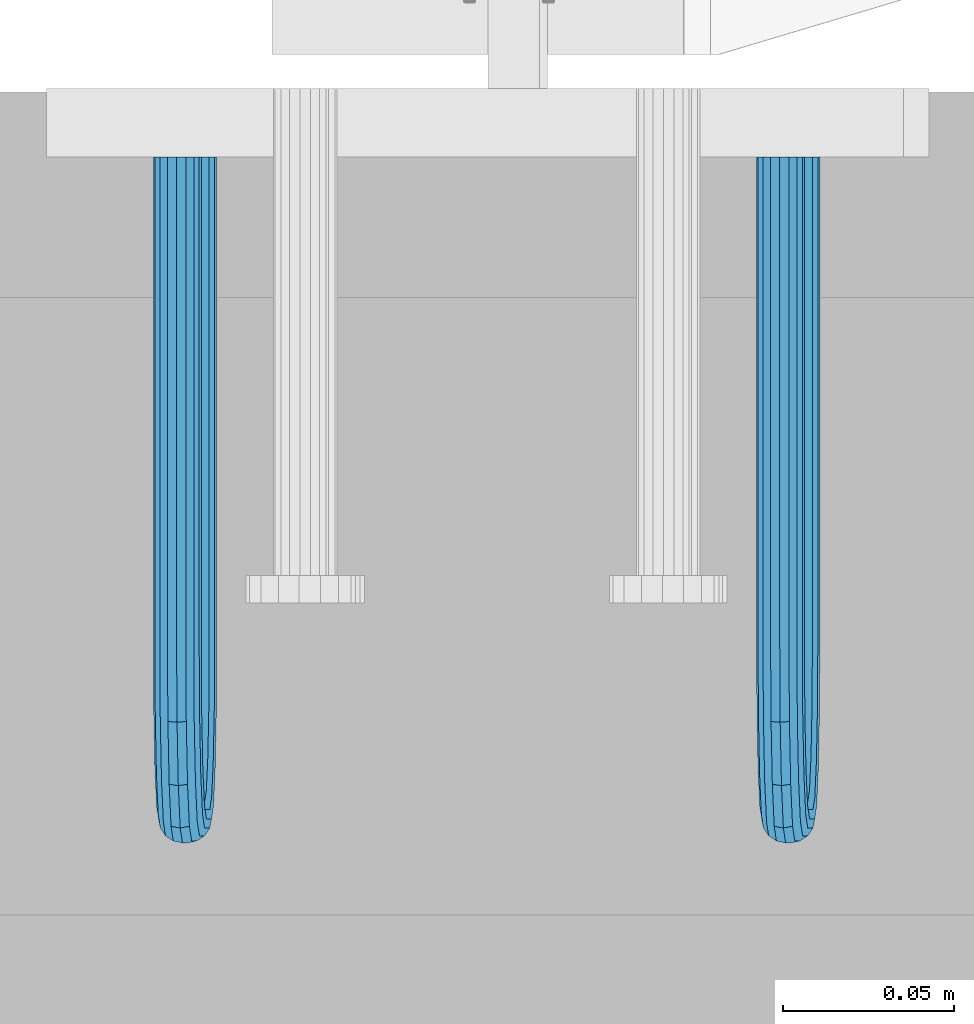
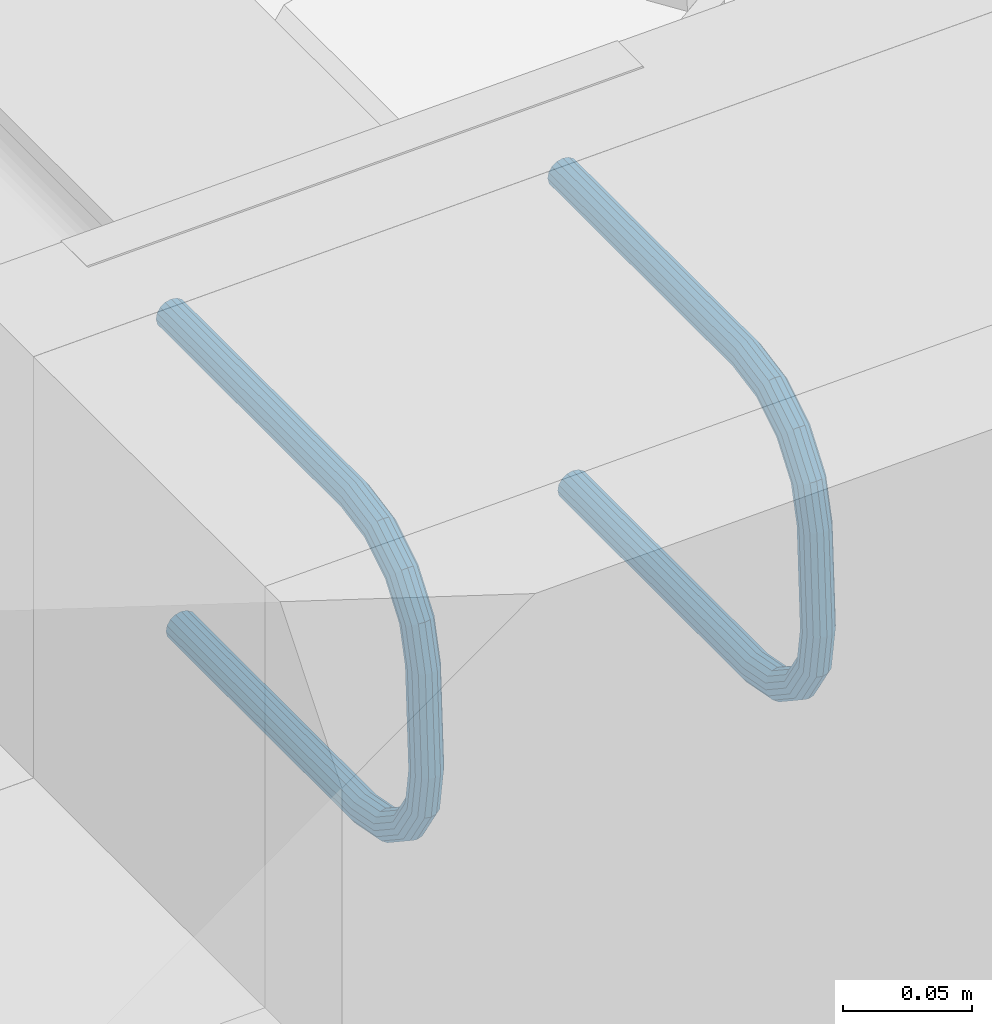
# One storey, part 78 of 476: 2 beams.
"""IFC2X3 building model written with IfcOpenShell, lengths in millimetres."""

from ifc_helpers import new_model, entity, si_unit, converted_unit, origin_with_axes, place, context, project, spatial, faceted_brep, material, element, save


model = new_model("IFC2X3")

# Units and contexts
model_context = context("Model", 3, precision=1e-09, world=origin_with_axes())
ifc_project = project(units=[si_unit("LENGTHUNIT", "METRE", prefix="MILLI"), si_unit("AREAUNIT", "SQUARE_METRE"), si_unit("VOLUMEUNIT", "CUBIC_METRE"), converted_unit("PLANEANGLEUNIT", "DEGREE", entity("IfcPlaneAngleMeasure", 0.01745329), si_unit("PLANEANGLEUNIT", "RADIAN"), dimensions=[0, 0, 0, 0, 0, 0, 0])], contexts=[model_context])

# Site, building, storey
site_placement = place(None, origin_with_axes())
site = spatial("IfcSite", under=ifc_project, at=site_placement, Name="mKR Teilneubau & Sanierung BA1 - Ostfildern", CompositionType="ELEMENT")
building_placement = place(site_placement, origin_with_axes())
building = spatial("IfcBuilding", under=site, at=building_placement, Name="Struktur 1", CompositionType="ELEMENT")
storey_placement = place(building_placement, origin_with_axes())
storey = spatial("IfcBuildingStorey", under=building, at=storey_placement, Name="Default Storey", CompositionType="ELEMENT", Elevation=0.0)

# Beams
ifc_material = material(Name="S235JR")
beam_1_placement = place(None, origin_with_axes())
element("IfcBeam", 1, at=beam_1_placement, inside=storey, material=ifc_material, Name="-", ObjectType="-", context=model_context, shape_type="Brep", body=[
    faceted_brep([(8251.627251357, -23499.31640625, 5094.711108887), (8253.851603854, -23499.31640625, 5096.296057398), (8256.513171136, -23499.31640625, 5096.909136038), (8259.20675371, -23499.31640625, 5096.457009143), (8261.522278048, -23499.31640625, 5095.008508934), (8263.107226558, -23499.31640625, 5092.784156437), (8263.720305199, -23499.31640625, 5090.122589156), (8263.268178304, -23499.31640625, 5087.429006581), (8261.819678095, -23499.31640625, 5085.113482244), (8259.595325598, -23499.31640625, 5083.528533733), (8256.933758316, -23499.31640625, 5082.915455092), (8254.240175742, -23499.31640625, 5083.367581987), (8251.924651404, -23499.31640625, 5084.816082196), (8250.339702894, -23499.31640625, 5087.040434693), (8249.726624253, -23499.31640625, 5089.702001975), (8250.178751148, -23499.31640625, 5092.395584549), (8249.733884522, -23499.31640625, 5233.299877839), (8247.418360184, -23499.31640625, 5234.748378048), (8245.833411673, -23499.31640625, 5236.972730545), (8245.220333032, -23499.31640625, 5239.634297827), (8245.672459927, -23499.31640625, 5242.327880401), (8247.120960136, -23499.31640625, 5244.643404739), (8249.345312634, -23499.31640625, 5246.22835325), (8252.006879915, -23499.31640625, 5246.84143189), (8254.70046249, -23499.31640625, 5246.389304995), (8257.015986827, -23499.31640625, 5244.940804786), (8258.600935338, -23499.31640625, 5242.716452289), (8259.214013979, -23499.31640625, 5240.054885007), (8258.761887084, -23499.31640625, 5237.361302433), (8257.313386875, -23499.31640625, 5235.045778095), (8255.089034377, -23499.31640625, 5233.460829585), (8252.427467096, -23499.31640625, 5232.847750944), (8251.627251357, -23642.31640625, 5094.711108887), (8253.851603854, -23642.31640625, 5096.296057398), (8250.178751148, -23642.31640625, 5092.395584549), (8249.726624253, -23642.31640625, 5089.702001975), (8250.339702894, -23642.31640625, 5087.040434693), (8251.924651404, -23642.31640625, 5084.816082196), (8254.240175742, -23642.31640625, 5083.367581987), (8256.933758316, -23642.31640625, 5082.915455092), (8259.595325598, -23642.31640625, 5083.528533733), (8261.819678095, -23642.31640625, 5085.113482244), (8263.268178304, -23642.31640625, 5087.429006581), (8263.720305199, -23642.31640625, 5090.122589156), (8263.107226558, -23642.31640625, 5092.784156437), (8261.522278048, -23642.31640625, 5095.008508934), (8259.20675371, -23642.31640625, 5096.457009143), (8256.513171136, -23642.31640625, 5096.909136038), (8251.524230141, -23659.556391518, 5098.138807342), (8253.75205266, -23658.975704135, 5099.608302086), (8250.070536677, -23660.425451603, 5095.996071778), (8249.612283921, -23661.450577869, 5093.506307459), (8250.219236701, -23662.475704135, 5091.048558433), (8251.798991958, -23663.344764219, 5088.996994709), (8254.111046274, -23663.925451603, 5087.663948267), (8256.803410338, -23664.129361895, 5087.252363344), (8259.466196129, -23663.925451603, 5087.824900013), (8261.694018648, -23663.344764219, 5089.294394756), (8263.147712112, -23662.475704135, 5091.43713032), (8263.605964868, -23661.450577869, 5093.926894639), (8262.999012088, -23660.425451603, 5096.384643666), (8261.419256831, -23659.556391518, 5098.43620739), (8259.107202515, -23658.975704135, 5099.769253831), (8256.414838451, -23658.771793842, 5100.180838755), (8251.230850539, -23674.17174531, 5107.90006669), (8253.468554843, -23673.098774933, 5109.040776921), (8249.762367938, -23675.777558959, 5106.249391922), (8249.286670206, -23677.67174531, 5104.340052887), (8249.876178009, -23679.56593166, 5102.462729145), (8251.441144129, -23681.17174531, 5100.903226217), (8253.74331666, -23682.244715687, 5099.898964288), (8256.432210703, -23682.621492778, 5099.602833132), (8259.098466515, -23682.244715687, 5100.059916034), (8261.33617082, -23681.17174531, 5101.200626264), (8262.80465342, -23679.56593166, 5102.851301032), (8263.280351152, -23677.67174531, 5104.760640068), (8262.690843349, -23675.777558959, 5106.63796381), (8261.125877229, -23674.17174531, 5108.197466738), (8258.823704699, -23673.098774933, 5109.201728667), (8256.134810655, -23672.721997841, 5109.497859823), (8250.791776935, -23683.937412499, 5122.508823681), (8253.044270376, -23682.535509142, 5123.157473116), (8249.301160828, -23686.035509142, 5121.594569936), (8248.799354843, -23688.510382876, 5120.553898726), (8249.362754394, -23690.98525661, 5119.545242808), (8250.905587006, -23693.083353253, 5118.722160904), (8253.1929704, -23694.48525661, 5118.209959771), (8255.876671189, -23694.977539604, 5118.086617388), (8258.548120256, -23694.48525661, 5118.370911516), (8260.800613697, -23693.083353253, 5119.019560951), (8262.291229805, -23690.98525661, 5119.933814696), (8262.793035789, -23688.510382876, 5120.974485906), (8262.229636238, -23686.035509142, 5121.983141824), (8260.686803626, -23683.937412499, 5122.806223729), (8258.399420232, -23682.535509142, 5123.318424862), (8255.715719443, -23682.043226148, 5123.441767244), (8250.273854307, -23687.366658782, 5139.741027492), (8252.543792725, -23685.849249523, 5139.809251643), (8248.757129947, -23689.637622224, 5139.695441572), (8248.224527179, -23692.31640625, 5139.679433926), (8248.757129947, -23694.995190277, 5139.695441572), (8250.273854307, -23697.266153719, 5139.741027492), (8252.543792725, -23698.783562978, 5139.809251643), (8255.221367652, -23699.31640625, 5139.889727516), (8257.89894258, -23698.783562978, 5139.970203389), (8260.168880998, -23697.266153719, 5140.03842754), (8261.685605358, -23694.995190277, 5140.08401346), (8262.218208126, -23692.31640625, 5140.100021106), (8261.685605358, -23689.637622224, 5140.08401346), (8260.168880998, -23687.366658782, 5140.03842754), (8257.89894258, -23685.849249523, 5139.970203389), (8255.221367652, -23685.31640625, 5139.889727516), (8248.771757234, -23687.366658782, 5189.718459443), (8251.041695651, -23685.849249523, 5189.786683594), (8247.255032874, -23689.637622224, 5189.672873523), (8246.722430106, -23692.31640625, 5189.656865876), (8247.255032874, -23694.995190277, 5189.672873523), (8248.771757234, -23697.266153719, 5189.718459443), (8251.041695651, -23698.783562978, 5189.786683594), (8253.719270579, -23699.31640625, 5189.867159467), (8256.396845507, -23698.783562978, 5189.947635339), (8258.666783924, -23697.266153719, 5190.01585949), (8260.183508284, -23694.995190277, 5190.06144541), (8260.716111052, -23692.31640625, 5190.077453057), (8260.183508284, -23689.637622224, 5190.06144541), (8258.666783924, -23687.366658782, 5190.01585949), (8256.396845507, -23685.849249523, 5189.947635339), (8253.719270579, -23685.31640625, 5189.867159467), (8248.253834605, -23683.937412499, 5206.950663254), (8250.541217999, -23682.535509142, 5206.438462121), (8246.711001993, -23686.035509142, 5207.773745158), (8246.147602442, -23688.510382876, 5208.782401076), (8246.649408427, -23690.98525661, 5209.823072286), (8248.140024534, -23693.083353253, 5210.737326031), (8250.392517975, -23694.48525661, 5211.385975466), (8253.063967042, -23694.977539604, 5211.670269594), (8255.747667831, -23694.48525661, 5211.546927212), (8258.035051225, -23693.083353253, 5211.034726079), (8259.577883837, -23690.98525661, 5210.211644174), (8260.141283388, -23688.510382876, 5209.202988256), (8259.639477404, -23686.035509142, 5208.162317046), (8258.148861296, -23683.937412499, 5207.248063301), (8255.896367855, -23682.535509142, 5206.599413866), (8253.224918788, -23682.043226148, 5206.315119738), (8247.814761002, -23674.17174531, 5221.559420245), (8250.116933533, -23673.098774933, 5220.555158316), (8246.249794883, -23675.777558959, 5223.118923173), (8245.660287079, -23677.67174531, 5224.996246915), (8246.135984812, -23679.56593166, 5226.90558595), (8247.604467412, -23681.17174531, 5228.556260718), (8249.842171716, -23682.244715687, 5229.696970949), (8252.508427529, -23682.621492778, 5230.154053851), (8255.197321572, -23682.244715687, 5229.857922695), (8257.499494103, -23681.17174531, 5228.853660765), (8259.064460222, -23679.56593166, 5227.294157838), (8259.653968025, -23677.67174531, 5225.416834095), (8259.178270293, -23675.777558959, 5223.50749506), (8257.709787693, -23674.17174531, 5221.856820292), (8255.472083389, -23673.098774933, 5220.716110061), (8252.805827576, -23672.721997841, 5220.25902716), (8247.5213814, -23659.556391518, 5231.320679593), (8249.833435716, -23658.975704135, 5229.987633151), (8245.941626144, -23660.425451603, 5233.372243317), (8245.334673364, -23661.450577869, 5235.829992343), (8245.79292612, -23662.475704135, 5238.319756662), (8247.246619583, -23663.344764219, 5240.462492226), (8249.474442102, -23663.925451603, 5241.93198697), (8252.137227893, -23664.129361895, 5242.504523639), (8254.829591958, -23663.925451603, 5242.092938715), (8257.141646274, -23663.344764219, 5240.759892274), (8258.72140153, -23662.475704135, 5238.70832855), (8259.32835431, -23661.450577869, 5236.250579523), (8258.870101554, -23660.425451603, 5233.760815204), (8257.416408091, -23659.556391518, 5231.61807964), (8255.188585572, -23658.975704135, 5230.148584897), (8252.525799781, -23658.771793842, 5229.576048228), (8247.418360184, -23642.31640625, 5234.748378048), (8249.733884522, -23642.31640625, 5233.299877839), (8245.833411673, -23642.31640625, 5236.972730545), (8245.220333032, -23642.31640625, 5239.634297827), (8245.672459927, -23642.31640625, 5242.327880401), (8247.120960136, -23642.31640625, 5244.643404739), (8249.345312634, -23642.31640625, 5246.22835325), (8252.006879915, -23642.31640625, 5246.84143189), (8254.70046249, -23642.31640625, 5246.389304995), (8257.015986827, -23642.31640625, 5244.940804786), (8258.600935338, -23642.31640625, 5242.716452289), (8259.214013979, -23642.31640625, 5240.054885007), (8258.761887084, -23642.31640625, 5237.361302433), (8257.313386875, -23642.31640625, 5235.045778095), (8255.089034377, -23642.31640625, 5233.460829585), (8252.427467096, -23642.31640625, 5232.847750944)], [[[0, 1, 2, 3, 4, 5, 6, 7, 8, 9, 10, 11, 12, 13, 14, 15]], [[16, 17, 18, 19, 20, 21, 22, 23, 24, 25, 26, 27, 28, 29, 30, 31]], [[1, 0, 32, 33]], [[0, 15, 34, 32]], [[15, 14, 35, 34]], [[14, 13, 36, 35]], [[13, 12, 37, 36]], [[12, 11, 38, 37]], [[11, 10, 39, 38]], [[10, 9, 40, 39]], [[9, 8, 41, 40]], [[8, 7, 42, 41]], [[7, 6, 43, 42]], [[6, 5, 44, 43]], [[5, 4, 45, 44]], [[4, 3, 46, 45]], [[3, 2, 47, 46]], [[2, 1, 33, 47]], [[33, 32, 48, 49]], [[32, 34, 50, 48]], [[34, 35, 51, 50]], [[35, 36, 52, 51]], [[36, 37, 53, 52]], [[37, 38, 54, 53]], [[38, 39, 55, 54]], [[39, 40, 56, 55]], [[40, 41, 57, 56]], [[41, 42, 58, 57]], [[42, 43, 59, 58]], [[43, 44, 60, 59]], [[44, 45, 61, 60]], [[45, 46, 62, 61]], [[46, 47, 63, 62]], [[47, 33, 49, 63]], [[49, 48, 64, 65]], [[48, 50, 66, 64]], [[50, 51, 67, 66]], [[51, 52, 68, 67]], [[52, 53, 69, 68]], [[53, 54, 70, 69]], [[54, 55, 71, 70]], [[55, 56, 72, 71]], [[56, 57, 73, 72]], [[57, 58, 74, 73]], [[58, 59, 75, 74]], [[59, 60, 76, 75]], [[60, 61, 77, 76]], [[61, 62, 78, 77]], [[62, 63, 79, 78]], [[63, 49, 65, 79]], [[65, 64, 80, 81]], [[64, 66, 82, 80]], [[66, 67, 83, 82]], [[67, 68, 84, 83]], [[68, 69, 85, 84]], [[69, 70, 86, 85]], [[70, 71, 87, 86]], [[71, 72, 88, 87]], [[72, 73, 89, 88]], [[73, 74, 90, 89]], [[74, 75, 91, 90]], [[75, 76, 92, 91]], [[76, 77, 93, 92]], [[77, 78, 94, 93]], [[78, 79, 95, 94]], [[79, 65, 81, 95]], [[81, 80, 96, 97]], [[80, 82, 98, 96]], [[82, 83, 99, 98]], [[83, 84, 100, 99]], [[84, 85, 101, 100]], [[85, 86, 102, 101]], [[86, 87, 103, 102]], [[87, 88, 104, 103]], [[88, 89, 105, 104]], [[89, 90, 106, 105]], [[90, 91, 107, 106]], [[91, 92, 108, 107]], [[92, 93, 109, 108]], [[93, 94, 110, 109]], [[94, 95, 111, 110]], [[95, 81, 97, 111]], [[97, 96, 112, 113]], [[96, 98, 114, 112]], [[98, 99, 115, 114]], [[99, 100, 116, 115]], [[100, 101, 117, 116]], [[101, 102, 118, 117]], [[102, 103, 119, 118]], [[103, 104, 120, 119]], [[104, 105, 121, 120]], [[105, 106, 122, 121]], [[106, 107, 123, 122]], [[107, 108, 124, 123]], [[108, 109, 125, 124]], [[109, 110, 126, 125]], [[110, 111, 127, 126]], [[111, 97, 113, 127]], [[113, 112, 128, 129]], [[112, 114, 130, 128]], [[114, 115, 131, 130]], [[115, 116, 132, 131]], [[116, 117, 133, 132]], [[117, 118, 134, 133]], [[118, 119, 135, 134]], [[119, 120, 136, 135]], [[120, 121, 137, 136]], [[121, 122, 138, 137]], [[122, 123, 139, 138]], [[123, 124, 140, 139]], [[124, 125, 141, 140]], [[125, 126, 142, 141]], [[126, 127, 143, 142]], [[127, 113, 129, 143]], [[129, 128, 144, 145]], [[128, 130, 146, 144]], [[130, 131, 147, 146]], [[131, 132, 148, 147]], [[132, 133, 149, 148]], [[133, 134, 150, 149]], [[134, 135, 151, 150]], [[135, 136, 152, 151]], [[136, 137, 153, 152]], [[137, 138, 154, 153]], [[138, 139, 155, 154]], [[139, 140, 156, 155]], [[140, 141, 157, 156]], [[141, 142, 158, 157]], [[142, 143, 159, 158]], [[143, 129, 145, 159]], [[145, 144, 160, 161]], [[144, 146, 162, 160]], [[146, 147, 163, 162]], [[147, 148, 164, 163]], [[148, 149, 165, 164]], [[149, 150, 166, 165]], [[150, 151, 167, 166]], [[151, 152, 168, 167]], [[152, 153, 169, 168]], [[153, 154, 170, 169]], [[154, 155, 171, 170]], [[155, 156, 172, 171]], [[156, 157, 173, 172]], [[157, 158, 174, 173]], [[158, 159, 175, 174]], [[159, 145, 161, 175]], [[161, 160, 176, 177]], [[160, 162, 178, 176]], [[162, 163, 179, 178]], [[163, 164, 180, 179]], [[164, 165, 181, 180]], [[165, 166, 182, 181]], [[166, 167, 183, 182]], [[167, 168, 184, 183]], [[168, 169, 185, 184]], [[169, 170, 186, 185]], [[170, 171, 187, 186]], [[171, 172, 188, 187]], [[172, 173, 189, 188]], [[173, 174, 190, 189]], [[174, 175, 191, 190]], [[175, 161, 177, 191]], [[177, 176, 17, 16]], [[176, 178, 18, 17]], [[178, 179, 19, 18]], [[179, 180, 20, 19]], [[180, 181, 21, 20]], [[181, 182, 22, 21]], [[182, 183, 23, 22]], [[183, 184, 24, 23]], [[184, 185, 25, 24]], [[185, 186, 26, 25]], [[186, 187, 27, 26]], [[187, 188, 28, 27]], [[188, 189, 29, 28]], [[189, 190, 30, 29]], [[190, 191, 31, 30]], [[191, 177, 16, 31]]]),
])
beam_2_placement = place(None, origin_with_axes())
element("IfcBeam", 2, at=beam_2_placement, inside=storey, material=ifc_material, Name="-", ObjectType="-", context=model_context, shape_type="Brep", body=[
    faceted_brep([(8075.706690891, -23499.31640625, 5089.423727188), (8077.931043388, -23499.31640625, 5091.008675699), (8080.592610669, -23499.31640625, 5091.62175434), (8083.286193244, -23499.31640625, 5091.169627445), (8085.601717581, -23499.31640625, 5089.721127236), (8087.186666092, -23499.31640625, 5087.496774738), (8087.799744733, -23499.31640625, 5084.835207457), (8087.347617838, -23499.31640625, 5082.141624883), (8085.899117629, -23499.31640625, 5079.826100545), (8083.674765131, -23499.31640625, 5078.241152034), (8081.01319785, -23499.31640625, 5077.628073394), (8078.319615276, -23499.31640625, 5078.080200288), (8076.004090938, -23499.31640625, 5079.528700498), (8074.419142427, -23499.31640625, 5081.753052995), (8073.806063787, -23499.31640625, 5084.414620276), (8074.258190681, -23499.31640625, 5087.108202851), (8073.813324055, -23499.31640625, 5228.01249614), (8071.497799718, -23499.31640625, 5229.460996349), (8069.912851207, -23499.31640625, 5231.685348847), (8069.299772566, -23499.31640625, 5234.346916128), (8069.751899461, -23499.31640625, 5237.040498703), (8071.20039967, -23499.31640625, 5239.35602304), (8073.424752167, -23499.31640625, 5240.940971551), (8076.086319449, -23499.31640625, 5241.554050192), (8078.779902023, -23499.31640625, 5241.101923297), (8081.095426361, -23499.31640625, 5239.653423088), (8082.680374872, -23499.31640625, 5237.42907059), (8083.293453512, -23499.31640625, 5234.767503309), (8082.841326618, -23499.31640625, 5232.073920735), (8081.392826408, -23499.31640625, 5229.758396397), (8079.168473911, -23499.31640625, 5228.173447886), (8076.50690663, -23499.31640625, 5227.560369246), (8075.706690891, -23642.31640625, 5089.423727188), (8077.931043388, -23642.31640625, 5091.008675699), (8074.258190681, -23642.31640625, 5087.108202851), (8073.806063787, -23642.31640625, 5084.414620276), (8074.419142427, -23642.31640625, 5081.753052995), (8076.004090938, -23642.31640625, 5079.528700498), (8078.319615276, -23642.31640625, 5078.080200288), (8081.01319785, -23642.31640625, 5077.628073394), (8083.674765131, -23642.31640625, 5078.241152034), (8085.899117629, -23642.31640625, 5079.826100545), (8087.347617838, -23642.31640625, 5082.141624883), (8087.799744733, -23642.31640625, 5084.835207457), (8087.186666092, -23642.31640625, 5087.496774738), (8085.601717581, -23642.31640625, 5089.721127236), (8083.286193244, -23642.31640625, 5091.169627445), (8080.592610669, -23642.31640625, 5091.62175434), (8075.603669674, -23659.556391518, 5092.851425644), (8077.831492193, -23658.975704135, 5094.320920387), (8074.149976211, -23660.425451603, 5090.708690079), (8073.691723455, -23661.450577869, 5088.21892576), (8074.298676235, -23662.475704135, 5085.761176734), (8075.878431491, -23663.344764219, 5083.70961301), (8078.190485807, -23663.925451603, 5082.376566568), (8080.882849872, -23664.129361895, 5081.964981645), (8083.545635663, -23663.925451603, 5082.537518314), (8085.773458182, -23663.344764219, 5084.007013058), (8087.227151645, -23662.475704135, 5086.149748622), (8087.685404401, -23661.450577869, 5088.639512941), (8087.078451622, -23660.425451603, 5091.097261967), (8085.498696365, -23659.556391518, 5093.148825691), (8083.186642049, -23658.975704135, 5094.481872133), (8080.494277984, -23658.771793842, 5094.893457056), (8075.310290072, -23674.17174531, 5102.612684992), (8077.547994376, -23673.098774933, 5103.753395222), (8073.841807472, -23675.777558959, 5100.962010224), (8073.36610974, -23677.67174531, 5099.052671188), (8073.955617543, -23679.56593166, 5097.175347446), (8075.520583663, -23681.17174531, 5095.615844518), (8077.822756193, -23682.244715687, 5094.611582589), (8080.511650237, -23682.621492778, 5094.315451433), (8083.177906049, -23682.244715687, 5094.772534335), (8085.415610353, -23681.17174531, 5095.913244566), (8086.884092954, -23679.56593166, 5097.563919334), (8087.359790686, -23677.67174531, 5099.473258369), (8086.770282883, -23675.777558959, 5101.350582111), (8085.205316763, -23674.17174531, 5102.910085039), (8082.903144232, -23673.098774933, 5103.914346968), (8080.214250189, -23672.721997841, 5104.210478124), (8074.871216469, -23683.937412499, 5117.221441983), (8077.12370991, -23682.535509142, 5117.870091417), (8073.380600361, -23686.035509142, 5116.307188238), (8072.878794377, -23688.510382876, 5115.266517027), (8073.442193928, -23690.98525661, 5114.25786111), (8074.98502654, -23693.083353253, 5113.434779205), (8077.272409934, -23694.48525661, 5112.922578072), (8079.956110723, -23694.977539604, 5112.79923569), (8082.62755979, -23694.48525661, 5113.083529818), (8084.880053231, -23693.083353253, 5113.732179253), (8086.370669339, -23690.98525661, 5114.646432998), (8086.872475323, -23688.510382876, 5115.687104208), (8086.309075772, -23686.035509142, 5116.695760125), (8084.76624316, -23683.937412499, 5117.51884203), (8082.478859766, -23682.535509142, 5118.031043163), (8079.795158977, -23682.043226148, 5118.154385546), (8074.353293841, -23687.366658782, 5134.453645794), (8076.623232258, -23685.849249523, 5134.521869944), (8072.836569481, -23689.637622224, 5134.408059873), (8072.303966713, -23692.31640625, 5134.392052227), (8072.836569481, -23694.995190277, 5134.408059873), (8074.353293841, -23697.266153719, 5134.453645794), (8076.623232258, -23698.783562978, 5134.521869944), (8079.300807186, -23699.31640625, 5134.602345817), (8081.978382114, -23698.783562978, 5134.68282169), (8084.248320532, -23697.266153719, 5134.751045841), (8085.765044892, -23694.995190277, 5134.796631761), (8086.297647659, -23692.31640625, 5134.812639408), (8085.765044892, -23689.637622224, 5134.796631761), (8084.248320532, -23687.366658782, 5134.751045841), (8081.978382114, -23685.849249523, 5134.68282169), (8079.300807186, -23685.31640625, 5134.602345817), (8072.851196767, -23687.366658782, 5184.431077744), (8075.121135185, -23685.849249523, 5184.499301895), (8071.334472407, -23689.637622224, 5184.385491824), (8070.80186964, -23692.31640625, 5184.369484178), (8071.334472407, -23694.995190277, 5184.385491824), (8072.851196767, -23697.266153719, 5184.431077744), (8075.121135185, -23698.783562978, 5184.499301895), (8077.798710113, -23699.31640625, 5184.579777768), (8080.476285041, -23698.783562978, 5184.660253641), (8082.746223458, -23697.266153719, 5184.728477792), (8084.262947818, -23694.995190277, 5184.774063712), (8084.795550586, -23692.31640625, 5184.790071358), (8084.262947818, -23689.637622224, 5184.774063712), (8082.746223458, -23687.366658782, 5184.728477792), (8080.476285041, -23685.849249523, 5184.660253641), (8077.798710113, -23685.31640625, 5184.579777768), (8072.333274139, -23683.937412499, 5201.663281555), (8074.620657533, -23682.535509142, 5201.151080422), (8070.790441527, -23686.035509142, 5202.48636346), (8070.227041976, -23688.510382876, 5203.495019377), (8070.72884796, -23690.98525661, 5204.535690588), (8072.219464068, -23693.083353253, 5205.449944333), (8074.471957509, -23694.48525661, 5206.098593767), (8077.143406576, -23694.977539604, 5206.382887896), (8079.827107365, -23694.48525661, 5206.259545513), (8082.114490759, -23693.083353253, 5205.74734438), (8083.657323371, -23690.98525661, 5204.924262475), (8084.220722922, -23688.510382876, 5203.915606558), (8083.718916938, -23686.035509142, 5202.874935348), (8082.22830083, -23683.937412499, 5201.960681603), (8079.975807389, -23682.535509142, 5201.312032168), (8077.304358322, -23682.043226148, 5201.02773804), (8071.894200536, -23674.17174531, 5216.272038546), (8074.196373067, -23673.098774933, 5215.267776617), (8070.329234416, -23675.777558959, 5217.831541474), (8069.739726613, -23677.67174531, 5219.708865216), (8070.215424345, -23679.56593166, 5221.618204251), (8071.683906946, -23681.17174531, 5223.268879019), (8073.92161125, -23682.244715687, 5224.40958925), (8076.587867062, -23682.621492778, 5224.866672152), (8079.276761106, -23682.244715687, 5224.570540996), (8081.578933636, -23681.17174531, 5223.566279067), (8083.143899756, -23679.56593166, 5222.006776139), (8083.733407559, -23677.67174531, 5220.129452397), (8083.257709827, -23675.777558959, 5218.220113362), (8081.789227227, -23674.17174531, 5216.569438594), (8079.551522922, -23673.098774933, 5215.428728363), (8076.88526711, -23672.721997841, 5214.971645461), (8071.600820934, -23659.556391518, 5226.033297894), (8073.91287525, -23658.975704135, 5224.700251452), (8070.021065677, -23660.425451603, 5228.084861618), (8069.414112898, -23661.450577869, 5230.542610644), (8069.872365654, -23662.475704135, 5233.032374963), (8071.326059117, -23663.344764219, 5235.175110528), (8073.553881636, -23663.925451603, 5236.644605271), (8076.216667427, -23664.129361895, 5237.21714194), (8078.909031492, -23663.925451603, 5236.805557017), (8081.221085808, -23663.344764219, 5235.472510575), (8082.800841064, -23662.475704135, 5233.420946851), (8083.407793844, -23661.450577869, 5230.963197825), (8082.949541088, -23660.425451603, 5228.473433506), (8081.495847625, -23659.556391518, 5226.330697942), (8079.268025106, -23658.975704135, 5224.861203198), (8076.605239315, -23658.771793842, 5224.288666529), (8071.497799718, -23642.31640625, 5229.460996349), (8073.813324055, -23642.31640625, 5228.01249614), (8069.912851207, -23642.31640625, 5231.685348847), (8069.299772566, -23642.31640625, 5234.346916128), (8069.751899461, -23642.31640625, 5237.040498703), (8071.20039967, -23642.31640625, 5239.35602304), (8073.424752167, -23642.31640625, 5240.940971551), (8076.086319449, -23642.31640625, 5241.554050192), (8078.779902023, -23642.31640625, 5241.101923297), (8081.095426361, -23642.31640625, 5239.653423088), (8082.680374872, -23642.31640625, 5237.42907059), (8083.293453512, -23642.31640625, 5234.767503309), (8082.841326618, -23642.31640625, 5232.073920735), (8081.392826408, -23642.31640625, 5229.758396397), (8079.168473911, -23642.31640625, 5228.173447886), (8076.50690663, -23642.31640625, 5227.560369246)], [[[0, 1, 2, 3, 4, 5, 6, 7, 8, 9, 10, 11, 12, 13, 14, 15]], [[16, 17, 18, 19, 20, 21, 22, 23, 24, 25, 26, 27, 28, 29, 30, 31]], [[1, 0, 32, 33]], [[0, 15, 34, 32]], [[15, 14, 35, 34]], [[14, 13, 36, 35]], [[13, 12, 37, 36]], [[12, 11, 38, 37]], [[11, 10, 39, 38]], [[10, 9, 40, 39]], [[9, 8, 41, 40]], [[8, 7, 42, 41]], [[7, 6, 43, 42]], [[6, 5, 44, 43]], [[5, 4, 45, 44]], [[4, 3, 46, 45]], [[3, 2, 47, 46]], [[2, 1, 33, 47]], [[33, 32, 48, 49]], [[32, 34, 50, 48]], [[34, 35, 51, 50]], [[35, 36, 52, 51]], [[36, 37, 53, 52]], [[37, 38, 54, 53]], [[38, 39, 55, 54]], [[39, 40, 56, 55]], [[40, 41, 57, 56]], [[41, 42, 58, 57]], [[42, 43, 59, 58]], [[43, 44, 60, 59]], [[44, 45, 61, 60]], [[45, 46, 62, 61]], [[46, 47, 63, 62]], [[47, 33, 49, 63]], [[49, 48, 64, 65]], [[48, 50, 66, 64]], [[50, 51, 67, 66]], [[51, 52, 68, 67]], [[52, 53, 69, 68]], [[53, 54, 70, 69]], [[54, 55, 71, 70]], [[55, 56, 72, 71]], [[56, 57, 73, 72]], [[57, 58, 74, 73]], [[58, 59, 75, 74]], [[59, 60, 76, 75]], [[60, 61, 77, 76]], [[61, 62, 78, 77]], [[62, 63, 79, 78]], [[63, 49, 65, 79]], [[65, 64, 80, 81]], [[64, 66, 82, 80]], [[66, 67, 83, 82]], [[67, 68, 84, 83]], [[68, 69, 85, 84]], [[69, 70, 86, 85]], [[70, 71, 87, 86]], [[71, 72, 88, 87]], [[72, 73, 89, 88]], [[73, 74, 90, 89]], [[74, 75, 91, 90]], [[75, 76, 92, 91]], [[76, 77, 93, 92]], [[77, 78, 94, 93]], [[78, 79, 95, 94]], [[79, 65, 81, 95]], [[81, 80, 96, 97]], [[80, 82, 98, 96]], [[82, 83, 99, 98]], [[83, 84, 100, 99]], [[84, 85, 101, 100]], [[85, 86, 102, 101]], [[86, 87, 103, 102]], [[87, 88, 104, 103]], [[88, 89, 105, 104]], [[89, 90, 106, 105]], [[90, 91, 107, 106]], [[91, 92, 108, 107]], [[92, 93, 109, 108]], [[93, 94, 110, 109]], [[94, 95, 111, 110]], [[95, 81, 97, 111]], [[97, 96, 112, 113]], [[96, 98, 114, 112]], [[98, 99, 115, 114]], [[99, 100, 116, 115]], [[100, 101, 117, 116]], [[101, 102, 118, 117]], [[102, 103, 119, 118]], [[103, 104, 120, 119]], [[104, 105, 121, 120]], [[105, 106, 122, 121]], [[106, 107, 123, 122]], [[107, 108, 124, 123]], [[108, 109, 125, 124]], [[109, 110, 126, 125]], [[110, 111, 127, 126]], [[111, 97, 113, 127]], [[113, 112, 128, 129]], [[112, 114, 130, 128]], [[114, 115, 131, 130]], [[115, 116, 132, 131]], [[116, 117, 133, 132]], [[117, 118, 134, 133]], [[118, 119, 135, 134]], [[119, 120, 136, 135]], [[120, 121, 137, 136]], [[121, 122, 138, 137]], [[122, 123, 139, 138]], [[123, 124, 140, 139]], [[124, 125, 141, 140]], [[125, 126, 142, 141]], [[126, 127, 143, 142]], [[127, 113, 129, 143]], [[129, 128, 144, 145]], [[128, 130, 146, 144]], [[130, 131, 147, 146]], [[131, 132, 148, 147]], [[132, 133, 149, 148]], [[133, 134, 150, 149]], [[134, 135, 151, 150]], [[135, 136, 152, 151]], [[136, 137, 153, 152]], [[137, 138, 154, 153]], [[138, 139, 155, 154]], [[139, 140, 156, 155]], [[140, 141, 157, 156]], [[141, 142, 158, 157]], [[142, 143, 159, 158]], [[143, 129, 145, 159]], [[145, 144, 160, 161]], [[144, 146, 162, 160]], [[146, 147, 163, 162]], [[147, 148, 164, 163]], [[148, 149, 165, 164]], [[149, 150, 166, 165]], [[150, 151, 167, 166]], [[151, 152, 168, 167]], [[152, 153, 169, 168]], [[153, 154, 170, 169]], [[154, 155, 171, 170]], [[155, 156, 172, 171]], [[156, 157, 173, 172]], [[157, 158, 174, 173]], [[158, 159, 175, 174]], [[159, 145, 161, 175]], [[161, 160, 176, 177]], [[160, 162, 178, 176]], [[162, 163, 179, 178]], [[163, 164, 180, 179]], [[164, 165, 181, 180]], [[165, 166, 182, 181]], [[166, 167, 183, 182]], [[167, 168, 184, 183]], [[168, 169, 185, 184]], [[169, 170, 186, 185]], [[170, 171, 187, 186]], [[171, 172, 188, 187]], [[172, 173, 189, 188]], [[173, 174, 190, 189]], [[174, 175, 191, 190]], [[175, 161, 177, 191]], [[177, 176, 17, 16]], [[176, 178, 18, 17]], [[178, 179, 19, 18]], [[179, 180, 20, 19]], [[180, 181, 21, 20]], [[181, 182, 22, 21]], [[182, 183, 23, 22]], [[183, 184, 24, 23]], [[184, 185, 25, 24]], [[185, 186, 26, 25]], [[186, 187, 27, 26]], [[187, 188, 28, 27]], [[188, 189, 29, 28]], [[189, 190, 30, 29]], [[190, 191, 31, 30]], [[191, 177, 16, 31]]]),
])

save(model, "model.ifc")
